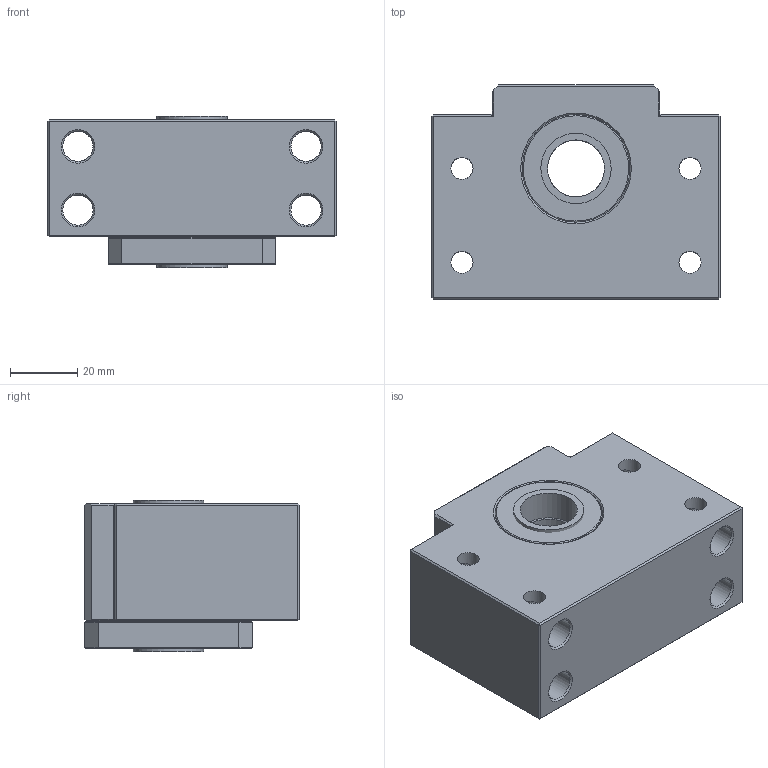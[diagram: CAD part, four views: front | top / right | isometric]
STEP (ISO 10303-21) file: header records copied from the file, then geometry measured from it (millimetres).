
FILE_DESCRIPTION(/* description */ (''),/* implementation_level */ '2;1');
FILE_NAME(/* name */ 'D:\owncloud\Kamp und Kötter\Artikel\_CAD-Dateien\Lagerbloecke\BKBF17\Steh-Festlager KUS25.stp',/* time_stamp */ '2019-02-17T18:34:16+01:00',/* author */ ('Buskamp'),/* organization */ (''),/* preprocessor_version */ 'ST-DEVELOPER v17',/* originating_system */ 'Autodesk Inventor 2019',/* authorisation */ '');
FILE_SCHEMA (('AUTOMOTIVE_DESIGN { 1 0 10303 214 3 1 1 }'));
Length unit declared in the file: millimetre
Products named in the file (9): FestlagerZusammenbau; Festlagerbock; Festlagerdeckel; Rolling bearing 70000AC 7203 AC GB/T 292; Passscheibe28x40x0_2; DIN 7984 - M6 x 10; DIN 3760 - AS - 20 x 32 x 7 - NBR; FestlagerRing-1; FestlagerRing-2
Assembly tree (13 placements, depth 2):
  FestlagerZusammenbau
    Festlagerbock
    Festlagerdeckel
    Rolling bearing 70000AC 7203 AC GB/T 292  x2
    Passscheibe28x40x0_2
    DIN 7984 - M6 x 10  x4
    DIN 3760 - AS - 20 x 32 x 7 - NBR  x2
    FestlagerRing-1
    FestlagerRing-2
Bounding box: 86 x 64 x 45.2 mm (x, y, z)
Volume: 157184.8 mm3; surface area: 62927.6 mm2
Topology: 29 solids, 29 shells, 322 faces, 852 edges, 574 vertices
Faces by surface type: plane 140, cylinder 66, torus 55, cone 47, sphere 14
Full cylindrical faces by diameter (mm): 4.917 x4, 6 x4, 6.5 x4, 6.6 x12, 9 x4, 10 x4, 10.8 x4, 14 x4, 17 x4, 21 x2, 24.2 x2, 24.498 x4, 28 x1, 28.5 x2, 32 x4, 32.502 x2, 40 x5
Entity records: 7997 total; most frequent: CARTESIAN_POINT 1771, DIRECTION 1318, ORIENTED_EDGE 1138, EDGE_CURVE 569, AXIS2_PLACEMENT_3D 531, VERTEX_POINT 403, EDGE_LOOP 310, CIRCLE 282
